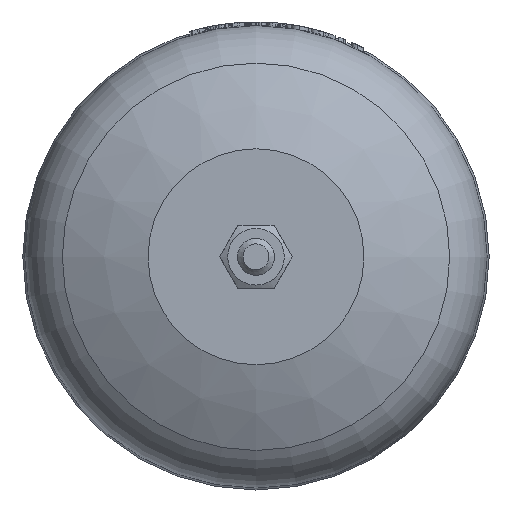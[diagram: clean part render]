
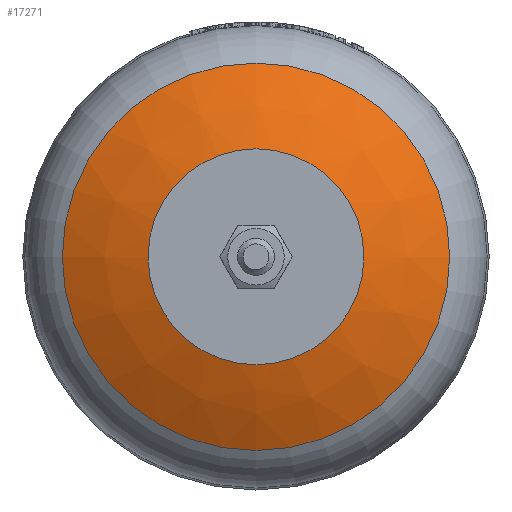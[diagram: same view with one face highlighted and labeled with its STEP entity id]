
A CAD part, front view. The second image highlights one B-rep face of the part: STEP entity #17271.
In plain terms, the highlighted free-form (B-spline) face has degree [2, 2] with [3, 9] control points.
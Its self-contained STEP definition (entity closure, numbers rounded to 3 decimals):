
#48=(
BOUNDED_CURVE()
B_SPLINE_CURVE(2,(#42670,#42671,#42672),.UNSPECIFIED.,.F.,.F.)
B_SPLINE_CURVE_WITH_KNOTS((3,3),(1.054,1.294),
 .UNSPECIFIED.)
CURVE()
GEOMETRIC_REPRESENTATION_ITEM()
RATIONAL_B_SPLINE_CURVE((1.,0.993,1.))
REPRESENTATION_ITEM('')
);
#50=(
BOUNDED_SURFACE()
B_SPLINE_SURFACE(2,2,((#42639,#42640,#42641,#42642,#42643,#42644,#42645,
#42646,#42647),(#42648,#42649,#42650,#42651,#42652,#42653,#42654,#42655,
#42656),(#42657,#42658,#42659,#42660,#42661,#42662,#42663,#42664,#42665)),
 .UNSPECIFIED.,.F.,.T.,.F.)
B_SPLINE_SURFACE_WITH_KNOTS((3,3),(3,2,2,2,3),(-1.294,-1.054),
(-3.142,-1.571,0.,1.571,3.142),
 .UNSPECIFIED.)
GEOMETRIC_REPRESENTATION_ITEM()
RATIONAL_B_SPLINE_SURFACE(((1.,0.707,1.,0.707,1.,
0.707,1.,0.707,1.),(0.993,0.702,
0.993,0.702,0.993,0.702,
0.993,0.702,0.993),(1.,0.707,
1.,0.707,1.,0.707,1.,0.707,1.)))
REPRESENTATION_ITEM('')
SURFACE()
);
#4999=FACE_OUTER_BOUND('',#6084,.T.);
#6084=EDGE_LOOP('',(#15775,#15776,#15777,#15778,#15779,#15780));
#6389=CIRCLE('',#18528,29.205);
#6390=CIRCLE('',#18529,29.205);
#6391=CIRCLE('',#18530,52.382);
#6392=CIRCLE('',#18531,52.382);
#8109=VERTEX_POINT('',#42635);
#8110=VERTEX_POINT('',#42636);
#8111=VERTEX_POINT('',#42666);
#8112=VERTEX_POINT('',#42667);
#10669=EDGE_CURVE('',#8109,#8110,#6389,.T.);
#10670=EDGE_CURVE('',#8110,#8109,#6390,.T.);
#10671=EDGE_CURVE('',#8111,#8112,#6391,.T.);
#10672=EDGE_CURVE('',#8112,#8111,#6392,.T.);
#10673=EDGE_CURVE('',#8112,#8110,#48,.T.);
#15775=ORIENTED_EDGE('',*,*,#10671,.F.);
#15776=ORIENTED_EDGE('',*,*,#10672,.F.);
#15777=ORIENTED_EDGE('',*,*,#10673,.T.);
#15778=ORIENTED_EDGE('',*,*,#10670,.T.);
#15779=ORIENTED_EDGE('',*,*,#10669,.T.);
#15780=ORIENTED_EDGE('',*,*,#10673,.F.);
#17271=ADVANCED_FACE('',(#4999),#50,.F.);
#18528=AXIS2_PLACEMENT_3D('',#42637,#22207,#22208);
#18529=AXIS2_PLACEMENT_3D('',#42638,#22209,#22210);
#18530=AXIS2_PLACEMENT_3D('',#42668,#22211,#22212);
#18531=AXIS2_PLACEMENT_3D('',#42669,#22213,#22214);
#22207=DIRECTION('center_axis',(0.,1.,0.));
#22208=DIRECTION('ref_axis',(-1.,0.,0.));
#22209=DIRECTION('center_axis',(0.,1.,0.));
#22210=DIRECTION('ref_axis',(-1.,0.,0.));
#22211=DIRECTION('center_axis',(0.,1.,0.));
#22212=DIRECTION('ref_axis',(-1.,0.,0.));
#22213=DIRECTION('center_axis',(0.,1.,0.));
#22214=DIRECTION('ref_axis',(-1.,0.,0.));
#42635=CARTESIAN_POINT('',(-29.205,0.,0.));
#42636=CARTESIAN_POINT('',(0.,0.,-29.205));
#42637=CARTESIAN_POINT('Origin',(0.,0.,0.));
#42638=CARTESIAN_POINT('Origin',(0.,0.,0.));
#42639=CARTESIAN_POINT('Ctrl Pts',(0.,0.,-29.205));
#42640=CARTESIAN_POINT('Ctrl Pts',(-29.205,0.,-29.205));
#42641=CARTESIAN_POINT('Ctrl Pts',(-29.205,0.,0.));
#42642=CARTESIAN_POINT('Ctrl Pts',(-29.205,0.,29.205));
#42643=CARTESIAN_POINT('Ctrl Pts',(0.,0.,29.205));
#42644=CARTESIAN_POINT('Ctrl Pts',(29.205,0.,29.205));
#42645=CARTESIAN_POINT('Ctrl Pts',(29.205,0.,0.));
#42646=CARTESIAN_POINT('Ctrl Pts',(29.205,0.,-29.205));
#42647=CARTESIAN_POINT('Ctrl Pts',(0.,0.,-29.205));
#42648=CARTESIAN_POINT('Ctrl Pts',(0.,3.46,-41.379));
#42649=CARTESIAN_POINT('Ctrl Pts',(-41.379,3.46,-41.379));
#42650=CARTESIAN_POINT('Ctrl Pts',(-41.379,3.46,0.));
#42651=CARTESIAN_POINT('Ctrl Pts',(-41.379,3.46,41.379));
#42652=CARTESIAN_POINT('Ctrl Pts',(0.,3.46,41.379));
#42653=CARTESIAN_POINT('Ctrl Pts',(41.379,3.46,41.379));
#42654=CARTESIAN_POINT('Ctrl Pts',(41.379,3.46,0.));
#42655=CARTESIAN_POINT('Ctrl Pts',(41.379,3.46,-41.379));
#42656=CARTESIAN_POINT('Ctrl Pts',(0.,3.46,-41.379));
#42657=CARTESIAN_POINT('Ctrl Pts',(0.,9.714,-52.382));
#42658=CARTESIAN_POINT('Ctrl Pts',(-52.382,9.714,-52.382));
#42659=CARTESIAN_POINT('Ctrl Pts',(-52.382,9.714,0.));
#42660=CARTESIAN_POINT('Ctrl Pts',(-52.382,9.714,52.382));
#42661=CARTESIAN_POINT('Ctrl Pts',(0.,9.714,52.382));
#42662=CARTESIAN_POINT('Ctrl Pts',(52.382,9.714,52.382));
#42663=CARTESIAN_POINT('Ctrl Pts',(52.382,9.714,0.));
#42664=CARTESIAN_POINT('Ctrl Pts',(52.382,9.714,-52.382));
#42665=CARTESIAN_POINT('Ctrl Pts',(0.,9.714,-52.382));
#42666=CARTESIAN_POINT('',(-52.382,9.714,0.));
#42667=CARTESIAN_POINT('',(0.,9.714,-52.382));
#42668=CARTESIAN_POINT('Origin',(0.,9.714,0.));
#42669=CARTESIAN_POINT('Origin',(0.,9.714,0.));
#42670=CARTESIAN_POINT('Ctrl Pts',(0.,9.714,-52.382));
#42671=CARTESIAN_POINT('Ctrl Pts',(0.,3.46,-41.379));
#42672=CARTESIAN_POINT('Ctrl Pts',(0.,0.,-29.205));
